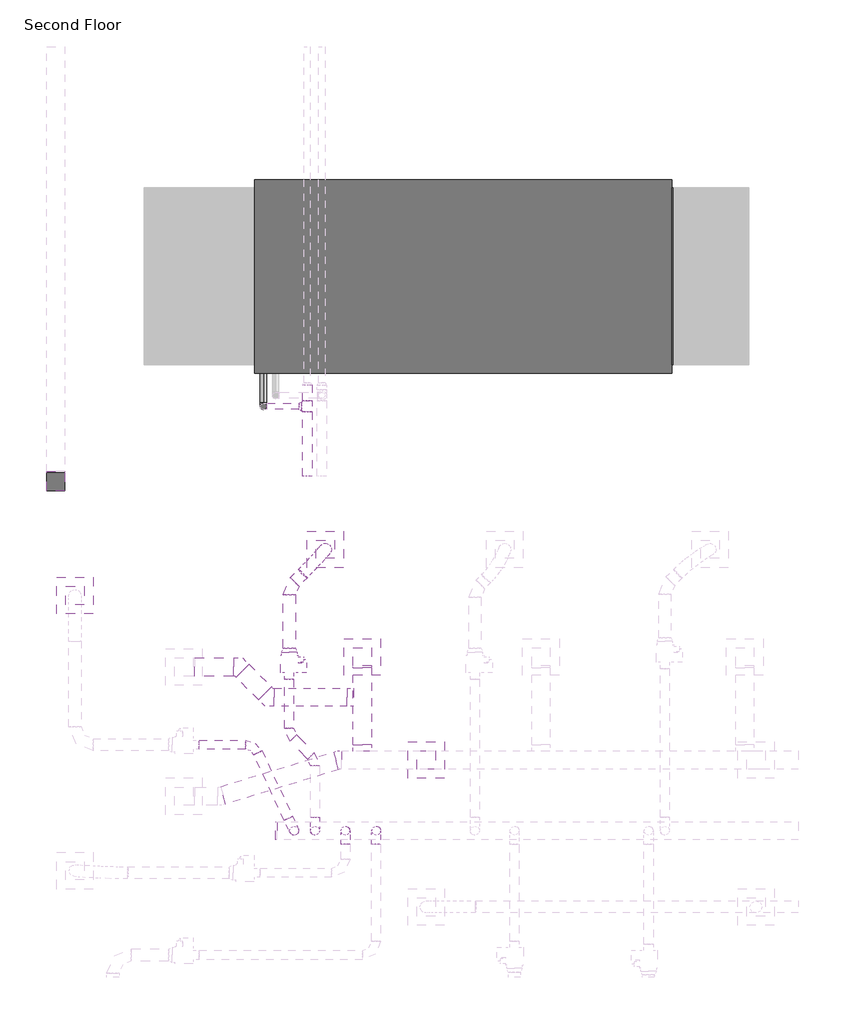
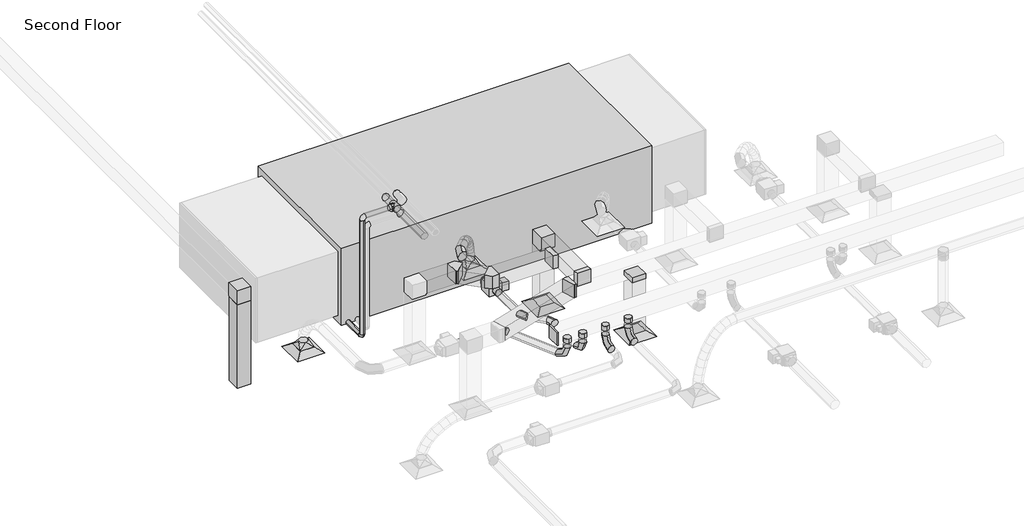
# One storey, part 5 of 44: 24 duct fittings, 19 duct segments, 5 pipe segments, 4 air terminals, 3 pipe fittings, 2 proxies.
"""IFC4 building model written with IfcOpenShell, lengths in millimetres."""

from ifc_helpers import new_model, si_unit, point, frame, frame_2d, origin, place, context, project, spatial, polyline, circle_curve, ellipse_curve, trimmed, segment, composite_curve, outline, extrude, transform, mapped, element, save
from ifc_brep_helpers import plane_surface, cylinder_surface, advanced_brep
from components import m_exhaust_grill_er_600_x_600_face_300_x_300_connection_ff221211, m_air_handling_unit_split_system_horizontal_300fd20e, m_vav_unit_single_duct_150_mm_ffdab17b, m_rectangular_elbow_mitered_standard_b81e202c, m_rectangular_elbow_mitered_standard_8eee5933, m_rectangular_elbow_mitered_standard_7d0aea46, m_rectangular_endcap_standard_7b60dd9d, m_rectangular_takeoff_standard_c00386d1, m_rectangular_takeoff_standard_b44bfa45, m_rectangular_to_round_transition_angle_45_degree_60daae35, m_rectangular_to_round_transition_angle_45_degree_1b7ae117, m_round_elbow_1_5_d_fa134dda, m_round_elbow_1_5_d_2e586196, m_round_elbow_1_5_d_f3829448, m_round_elbow_1_5_d_7cec845b, m_round_takeoff_standard_d02f3bf7, m_round_takeoff_standard_2721f8a4, m_elbow_generic_standard_09f08a26, m_tee_generic_standard_a561f7f4, m_transition_generic_standard_df45198b

model = new_model("IFC4")

# Units and contexts
model_context = context("Model", 3, world=origin())
ifc_project = project(units=[si_unit("LENGTHUNIT", "METRE", prefix="MILLI")], contexts=[model_context])

# Site, building, storey
site = spatial("IfcSite", under=ifc_project)
building = spatial("IfcBuilding", under=site)
storey = spatial("IfcBuildingStorey", under=building, Name="Second Floor", Elevation=4570.0)

# Air terminals
placement = place(None, origin())
m_exhaust_grill_er_600_x_600_face_300_x_300_connection_shape = m_exhaust_grill_er_600_x_600_face_300_x_300_connection_ff221211(model_context)
element("IfcAirTerminal", 1, ObjectType="M_Return Register : RR-600 x 600 Face 300 x 300 Connection", at=placement, inside=storey, context=model_context, shape_type="MappedRepresentation", body=[
    mapped(m_exhaust_grill_er_600_x_600_face_300_x_300_connection_shape, transform((-41268.6463278, 18995.9490649, 7250.0), x_axis=(1.0, 0.0, 0.0), y_axis=(0.0, 1.0, 0.0), z_axis=(0.0, 0.0, 1.0))),
])
element("IfcAirTerminal", 2, ObjectType="M_Return Register : RR-600 x 600 Face 300 x 300 Connection", at=placement, inside=storey, context=model_context, shape_type="MappedRepresentation", body=[
    mapped(m_exhaust_grill_er_600_x_600_face_300_x_300_connection_shape, transform((-40222.3950538, 17305.6323311, 7250.0), x_axis=(1.0, 0.0, 0.0), y_axis=(0.0, 1.0, 0.0), z_axis=(0.0, 0.0, 1.0))),
])
element("IfcAirTerminal", 3, ObjectType="M_Supply Diffuser : SD-600 x 600 Face 300 x 300 Connection", at=placement, inside=storey, context=model_context, shape_type="MappedRepresentation", body=[
    mapped(m_exhaust_grill_er_600_x_600_face_300_x_300_connection_shape, transform((-45979.7910179, 20000.1386962, 7250.0), x_axis=(1.0, 0.0, 0.0), y_axis=(0.0, 1.0, 0.0), z_axis=(0.0, 0.0, 1.0))),
])
element("IfcAirTerminal", 4, ObjectType="M_Supply Diffuser : SD-600 x 600 Face 300 x 300 Connection", at=placement, inside=storey, context=model_context, shape_type="MappedRepresentation", body=[
    mapped(m_exhaust_grill_er_600_x_600_face_300_x_300_connection_shape, transform((-41875.4808414, 20757.586497, 7250.0), x_axis=(1.0, 0.0, 0.0), y_axis=(0.0, 1.0, 0.0), z_axis=(0.0, 0.0, 1.0))),
])

# Proxies
m_air_handling_unit_split_system_horizontal_shape = m_air_handling_unit_split_system_horizontal_300fd20e(model_context)
element("IfcBuildingElementProxy", 5, Name="M_Air Handling Unit - Split System - Horizontal : 63300000 J", ObjectType="M_Air Handling Unit - Split System - Horizontal : 63300000 J", at=placement, inside=storey, context=model_context, shape_type="MappedRepresentation", body=[
    mapped(m_air_handling_unit_split_system_horizontal_shape, transform((-43038.6289987, 23641.3199771, 4570.0), x_axis=(1.0, 0.0, 0.0), y_axis=(0.0, 1.0, 0.0), z_axis=(0.0, 0.0, 1.0))),
])
m_vav_unit_single_duct_150_mm_shape = m_vav_unit_single_duct_150_mm_ffdab17b(model_context)
element("IfcBuildingElementProxy", 6, Name="M_VAV Unit - Single Duct : 150 mm", ObjectType="M_VAV Unit - Single Duct : 150 mm", at=placement, inside=storey, context=model_context, shape_type="MappedRepresentation", body=[
    mapped(m_vav_unit_single_duct_150_mm_shape, transform((-42468.5, 18731.5745441, 8070.0), x_axis=(0.0, 1.0, 0.0), y_axis=(-1.0, 0.0, 0.0), z_axis=(0.0, 0.0, 1.0))),
])

# Duct fittings
m_rectangular_elbow_mitered_standard_shape = m_rectangular_elbow_mitered_standard_b81e202c(model_context)
element("IfcDuctFitting", 7, ObjectType="M_Rectangular Elbow - Mitered : Standard", at=placement, inside=storey, context=model_context, shape_type="MappedRepresentation", body=[
    mapped(m_rectangular_elbow_mitered_standard_shape, transform((-43296.6192649, 18829.5508539, 8820.0), x_axis=(-0.7071067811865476, 0.7071067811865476, 0.0), y_axis=(-0.7071067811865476, -0.7071067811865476, 0.0), z_axis=(0.0, 0.0, 1.0))),
])
element("IfcDuctFitting", 8, ObjectType="M_Rectangular Elbow - Mitered : Standard", at=placement, inside=storey, context=model_context, shape_type="MappedRepresentation", body=[
    mapped(m_rectangular_elbow_mitered_standard_shape, transform((-42801.6445181, 18334.5761071, 8820.0), x_axis=(0.7071067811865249, -0.7071067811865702, 0.0), y_axis=(0.7071067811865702, 0.7071067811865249, 0.0), z_axis=(0.0, 0.0, 1.0))),
])
m_rectangular_elbow_mitered_standard_2_shape = m_rectangular_elbow_mitered_standard_8eee5933(model_context)
element("IfcDuctFitting", 9, ObjectType="M_Rectangular Elbow - Mitered : Standard", at=placement, inside=storey, context=model_context, shape_type="MappedRepresentation", body=[
    mapped(m_rectangular_elbow_mitered_standard_2_shape, transform((-41268.6463278, 18995.9490649, 8820.0), x_axis=(0.0, 0.0, 1.0), y_axis=(0.0, -1.0, 0.0), z_axis=(1.0, 0.0, 0.0))),
])
element("IfcDuctFitting", 10, ObjectType="M_Rectangular Elbow - Mitered : Standard", at=placement, inside=storey, context=model_context, shape_type="MappedRepresentation", body=[
    mapped(m_rectangular_elbow_mitered_standard_2_shape, transform((-46297.5612377, 21863.8569613, 7590.5382387), x_axis=(0.0, 0.0, 1.0), y_axis=(0.0, 1.0, 0.0), z_axis=(-1.0, 0.0, 0.0))),
])
m_rectangular_elbow_mitered_standard_3_shape = m_rectangular_elbow_mitered_standard_7d0aea46(model_context)
element("IfcDuctFitting", 11, ObjectType="M_Rectangular Elbow - Mitered : Standard", at=placement, inside=storey, context=model_context, shape_type="MappedRepresentation", body=[
    mapped(m_rectangular_elbow_mitered_standard_3_shape, transform((-41656.6018515, 17305.6323311, 8820.0), x_axis=(-1.0, 0.0, 0.0), y_axis=(0.0, -1.0, 0.0), z_axis=(0.0, 0.0, 1.0))),
])
m_rectangular_endcap_standard_shape = m_rectangular_endcap_standard_7b60dd9d(model_context)
element("IfcDuctFitting", 12, ObjectType="M_Rectangular Endcap : Standard", at=placement, inside=storey, context=model_context, shape_type="MappedRepresentation", body=[
    mapped(m_rectangular_endcap_standard_shape, transform((-42668.6463278, 16146.5905517, 8770.0), x_axis=(-1.0, 0.0, 0.0), y_axis=(0.0, -1.0, 0.0), z_axis=(0.0, 0.0, 1.0))),
])
m_rectangular_takeoff_standard_shape = m_rectangular_takeoff_standard_c00386d1(model_context)
element("IfcDuctFitting", 13, ObjectType="M_Rectangular Takeoff : Standard", at=placement, inside=storey, context=model_context, shape_type="MappedRepresentation", body=[
    mapped(m_rectangular_takeoff_standard_shape, transform((-41268.6463278, 17455.6323311, 8820.0), x_axis=(0.0, 1.0, 0.0), y_axis=(1.0, 0.0, 0.0), z_axis=(0.0, 0.0, -1.0))),
])
element("IfcDuctFitting", 14, ObjectType="M_Rectangular Takeoff : Standard", at=placement, inside=storey, context=model_context, shape_type="MappedRepresentation", body=[
    mapped(m_rectangular_takeoff_standard_shape, transform((-40222.3950538, 17305.6323311, 8670.0), x_axis=(0.0, 0.0, -1.0), y_axis=(0.0, 1.0, 0.0), z_axis=(1.0, 0.0, 0.0))),
])
m_rectangular_takeoff_standard_2_shape = m_rectangular_takeoff_standard_b44bfa45(model_context)
element("IfcDuctFitting", 15, ObjectType="M_Rectangular Takeoff : Standard", at=placement, inside=storey, context=model_context, shape_type="MappedRepresentation", body=[
    mapped(m_rectangular_takeoff_standard_2_shape, transform((-41418.6463278, 18334.5761071, 8820.0), x_axis=(-1.0, 0.0, 0.0), y_axis=(0.0, 1.0, 0.0), z_axis=(0.0, 0.0, -1.0))),
])
m_rectangular_to_round_transition_angle_45_degree_shape = m_rectangular_to_round_transition_angle_45_degree_60daae35(model_context)
element("IfcDuctFitting", 16, ObjectType="M_Rectangular to Round Transition - Angle : 45 Degree", at=placement, inside=storey, context=model_context, shape_type="MappedRepresentation", body=[
    mapped(m_rectangular_to_round_transition_angle_45_degree_shape, transform((-41875.4808414, 20757.586497, 7351.6), x_axis=(0.0, 0.0, 1.0), y_axis=(1.0, 0.0, 0.0), z_axis=(0.0, 1.0, 0.0))),
])
element("IfcDuctFitting", 17, ObjectType="M_Rectangular to Round Transition - Angle : 45 Degree", at=placement, inside=storey, context=model_context, shape_type="MappedRepresentation", body=[
    mapped(m_rectangular_to_round_transition_angle_45_degree_shape, transform((-45979.7910179, 20000.1386962, 7351.6), x_axis=(0.0, 0.0, 1.0), y_axis=(1.0, 0.0, 0.0), z_axis=(0.0, 1.0, 0.0))),
])
m_rectangular_to_round_transition_angle_45_degree_2_shape = m_rectangular_to_round_transition_angle_45_degree_1b7ae117(model_context)
element("IfcDuctFitting", 18, ObjectType="M_Rectangular to Round Transition - Angle : 45 Degree", at=placement, inside=storey, context=model_context, shape_type="MappedRepresentation", body=[
    mapped(m_rectangular_to_round_transition_angle_45_degree_2_shape, transform((-42468.5, 19074.3745441, 8189.05), x_axis=(0.0, 1.0, 0.0), y_axis=(-1.0, 0.0, 0.0), z_axis=(0.0, 0.0, 1.0))),
])
m_round_elbow_1_5_d_shape = m_round_elbow_1_5_d_fa134dda(model_context)
element("IfcDuctFitting", 19, ObjectType="M_Round Elbow : 1.5 D", at=placement, inside=storey, context=model_context, shape_type="MappedRepresentation", body=[
    mapped(m_round_elbow_1_5_d_shape, transform((-42469.35, 17729.9745441, 8179.5), x_axis=(0.0, -0.9999999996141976, -2.7777777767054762e-05), y_axis=(0.9999999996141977, -7.716049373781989e-10, 2.7777777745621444e-05), z_axis=(-2.7777777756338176e-05, -2.777777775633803e-05, 0.9999999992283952))),
])
element("IfcDuctFitting", 20, ObjectType="M_Round Elbow : 1.5 D", at=placement, inside=storey, context=model_context, shape_type="MappedRepresentation", body=[
    mapped(m_round_elbow_1_5_d_shape, transform((-42045.0859313, 17305.7104754, 8179.5), x_axis=(0.0, 1.0, 0.0), y_axis=(-1.0, 0.0, 0.0), z_axis=(0.0, 0.0, 1.0))),
])
m_round_elbow_1_5_d_2_shape = m_round_elbow_1_5_d_2e586196(model_context)
element("IfcDuctFitting", 21, ObjectType="M_Round Elbow : 1.5 D", at=placement, inside=storey, context=model_context, shape_type="MappedRepresentation", body=[
    mapped(m_round_elbow_1_5_d_2_shape, transform((-41548.0010046, 16146.5905517, 8179.5), x_axis=(0.0, 0.0, -1.0), y_axis=(0.0, -1.0, 0.0), z_axis=(-1.0, 0.0, 0.0))),
])
element("IfcDuctFitting", 22, ObjectType="M_Round Elbow : 1.5 D", at=placement, inside=storey, context=model_context, shape_type="MappedRepresentation", body=[
    mapped(m_round_elbow_1_5_d_2_shape, transform((-41042.7292263, 16146.5905517, 8179.5), x_axis=(0.0, 0.0, -1.0), y_axis=(0.0, -1.0, 0.0), z_axis=(-1.0, 0.0, 0.0))),
])
element("IfcDuctFitting", 23, ObjectType="M_Round Elbow : 1.5 D", at=placement, inside=storey, context=model_context, shape_type="MappedRepresentation", body=[
    mapped(m_round_elbow_1_5_d_2_shape, transform((-42045.0859313, 16146.5905517, 8179.5), x_axis=(0.0, 0.0, -1.0), y_axis=(0.0, 1.0, 0.0), z_axis=(1.0, 0.0, 0.0))),
])
element("IfcDuctFitting", 24, ObjectType="M_Round Elbow : 1.5 D", at=placement, inside=storey, context=model_context, shape_type="MappedRepresentation", body=[
    mapped(m_round_elbow_1_5_d_2_shape, transform((-42386.7135753, 16146.5905517, 8179.5), x_axis=(0.0, 0.0, -1.0), y_axis=(-0.422618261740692, 0.9063077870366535, 0.0), z_axis=(0.9063077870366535, 0.422618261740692, 0.0))),
])
m_round_elbow_1_5_d_3_shape = m_round_elbow_1_5_d_f3829448(model_context)
element("IfcDuctFitting", 25, ObjectType="M_Round Elbow : 1.5 D", at=placement, inside=storey, context=model_context, shape_type="MappedRepresentation", body=[
    mapped(m_round_elbow_1_5_d_3_shape, transform((-42468.5, 20136.2730341, 8189.1), x_axis=(-0.7071067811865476, -0.7071067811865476, 0.0), y_axis=(0.7071067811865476, -0.7071067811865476, 0.0), z_axis=(0.0, 0.0, 1.0))),
])
m_round_elbow_1_5_d_4_shape = m_round_elbow_1_5_d_7cec845b(model_context)
element("IfcDuctFitting", 26, ObjectType="M_Round Elbow : 1.5 D", at=placement, inside=storey, context=model_context, shape_type="MappedRepresentation", body=[
    mapped(m_round_elbow_1_5_d_4_shape, transform((-43042.7292263, 17553.4206552, 8179.5), x_axis=(-0.42261826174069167, 0.9063077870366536, 0.0), y_axis=(-0.9063077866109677, -0.42261826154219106, 3.06493866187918e-05), z_axis=(2.7777777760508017e-05, 1.2952990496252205e-05, 0.9999999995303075))),
])
m_round_takeoff_standard_shape = m_round_takeoff_standard_d02f3bf7(model_context)
element("IfcDuctFitting", 27, ObjectType="M_Round Takeoff : Standard", at=placement, inside=storey, context=model_context, shape_type="MappedRepresentation", body=[
    mapped(m_round_takeoff_standard_shape, transform((-41548.0010046, 16146.5905517, 8620.0), x_axis=(0.0, 0.0, -1.0), y_axis=(1.0, 0.0, 0.0), z_axis=(0.0, -1.0, 0.0))),
])
element("IfcDuctFitting", 28, ObjectType="M_Round Takeoff : Standard", at=placement, inside=storey, context=model_context, shape_type="MappedRepresentation", body=[
    mapped(m_round_takeoff_standard_shape, transform((-42045.0859313, 16146.5905517, 8620.0), x_axis=(0.0, 0.0, -1.0), y_axis=(-1.0, 0.0, 0.0), z_axis=(0.0, 1.0, 0.0))),
])
element("IfcDuctFitting", 29, ObjectType="M_Round Takeoff : Standard", at=placement, inside=storey, context=model_context, shape_type="MappedRepresentation", body=[
    mapped(m_round_takeoff_standard_shape, transform((-42386.7135753, 16146.5905517, 8620.0), x_axis=(0.0, 0.0, -1.0), y_axis=(-1.0, 0.0, 0.0), z_axis=(0.0, 1.0, 0.0))),
])
m_round_takeoff_standard_2_shape = m_round_takeoff_standard_2721f8a4(model_context)
element("IfcDuctFitting", 30, ObjectType="M_Round Takeoff : Standard", at=placement, inside=storey, context=model_context, shape_type="MappedRepresentation", body=[
    mapped(m_round_takeoff_standard_2_shape, transform((-41042.7292263, 16146.5905517, 8620.0), x_axis=(0.0, 0.0, -1.0), y_axis=(1.0, 0.0, 0.0), z_axis=(0.0, -1.0, 0.0))),
])

# Duct segments
element("IfcDuctSegment", 31, ObjectType="Flex - Round", at=placement, inside=storey, context=model_context, shape_type="AdvancedBrep", body=[
    advanced_brep(
    [(-42313.4921028, 20432.6978874, 8189.1), (-42253.9896598, 20350.5962979, 8090.5160851), (-42170.9595628, 20292.3965152, 8189.1), (-42230.4620058, 20374.4981047, 8287.6839149), (-42237.4981758, 20509.9003215, 8170.6728738), (-42188.0306206, 20417.6042627, 8074.5222341), (-42094.0521131, 20370.5269995, 8170.4513614), (-42143.5196684, 20462.8230583, 8266.6020011), (-41948.2635169, 20826.1610652, 7472.7697558), (-41807.1722266, 20830.0245791, 7481.6196743), (-41802.6981659, 20689.0119289, 7471.8516005), (-41943.7894562, 20685.148415, 7463.001682), (-42168.1385734, 20582.4342975, 8119.7471669), (-42134.655335, 20473.4223692, 8035.3326475), (-42023.3447827, 20444.4703847, 8118.5361159), (-42056.8280211, 20553.482313, 8202.9506353), (-42106.0382171, 20649.0406232, 8042.173547), (-42083.1497362, 20528.6651874, 7970.9936328), (-41960.5404465, 20511.8317708, 8040.0831087), (-41983.4289274, 20632.2072067, 8111.263023), (-42052.4773958, 20707.7819316, 7944.125347), (-42036.5900328, 20579.7282188, 7885.7616478), (-41906.686612, 20570.8944331, 7941.4985201), (-41922.573975, 20698.9481459, 7999.8622193), (-42008.7047545, 20756.7461739, 7831.8617205), (-41997.6751063, 20623.2586029, 7785.9565951), (-41862.8624309, 20619.9163281, 7829.1027094), (-41873.892079, 20753.4038992, 7875.0078347), (-41975.9351752, 20794.0533532, 7711.6470833), (-41968.4450066, 20656.5361912, 7678.7264778), (-41830.1808175, 20657.1233608, 7709.2107736), (-41837.6709861, 20794.6405228, 7742.1313791), (-41955.3706707, 20817.8349019, 7589.7115951), (-41950.395999, 20677.4087269, 7571.7064152), (-41809.7675557, 20680.7300069, 7588.1720663), (-41814.7422274, 20821.1561818, 7606.1772462)],
    [
        (0, 1, circle_curve(frame((-42242.2258328, 20362.5472013, 8189.1), z_axis=(-0.6915729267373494, -0.7025707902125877, 0.16769368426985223), x_axis=(-0.7126627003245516, 0.7015068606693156, 0.0)), 100.0)),
        (1, 2, circle_curve(frame((-42242.2258328, 20362.5472013, 8189.1), z_axis=(-0.6915729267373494, -0.7025707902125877, 0.16769368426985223), x_axis=(-0.7126627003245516, 0.7015068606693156, 0.0)), 100.0)),
        (2, 3, circle_curve(frame((-42242.2258328, 20362.5472013, 8189.1), z_axis=(-0.6915729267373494, -0.7025707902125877, 0.16769368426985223), x_axis=(-0.7126627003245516, 0.7015068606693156, 0.0)), 100.0)),
        (3, 0, circle_curve(frame((-42242.2258328, 20362.5472013, 8189.1), z_axis=(-0.6915729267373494, -0.7025707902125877, 0.16769368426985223), x_axis=(-0.7126627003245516, 0.7015068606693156, 0.0)), 100.0)),
        (0, 4),
        (4, 5, ellipse_curve(frame((-42165.7751445, 20440.2136605, 8170.5621176), z_axis=(-0.661437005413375, -0.6812639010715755, 0.31365679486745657), x_axis=(-0.2506661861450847, -0.1933536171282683, -0.9485677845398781)), 101.1463619, 100.0)),
        (5, 1),
        (5, 6, ellipse_curve(frame((-42165.7751445, 20440.2136605, 8170.5621176), z_axis=(-0.661437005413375, -0.6812639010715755, 0.31365679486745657), x_axis=(-0.2506661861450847, -0.1933536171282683, -0.9485677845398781)), 101.1463619, 100.0)),
        (6, 2),
        (6, 7, ellipse_curve(frame((-42165.7751445, 20440.2136605, 8170.5621176), z_axis=(-0.661437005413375, -0.6812639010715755, 0.31365679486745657), x_axis=(-0.2506661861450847, -0.1933536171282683, -0.9485677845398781)), 101.1463619, 100.0)),
        (7, 3),
        (7, 4, ellipse_curve(frame((-42165.7751445, 20440.2136605, 8170.5621176), z_axis=(-0.661437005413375, -0.6812639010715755, 0.31365679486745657), x_axis=(-0.2506661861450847, -0.1933536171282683, -0.9485677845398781)), 101.1463619, 100.0)),
        (8, 9, circle_curve(frame((-41875.4808414, 20757.586497, 7472.3106781), z_axis=(0.06051056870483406, 0.0708892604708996, -0.9956471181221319), x_axis=(-0.7278267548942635, 0.6857456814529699, 0.004590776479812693)), 100.0)),
        (9, 10, circle_curve(frame((-41875.4808414, 20757.586497, 7472.3106781), z_axis=(0.06051056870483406, 0.0708892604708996, -0.9956471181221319), x_axis=(-0.7278267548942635, 0.6857456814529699, 0.004590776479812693)), 100.0)),
        (10, 11, circle_curve(frame((-41875.4808414, 20757.586497, 7472.3106781), z_axis=(0.06051056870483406, 0.0708892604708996, -0.9956471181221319), x_axis=(-0.7278267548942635, 0.6857456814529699, 0.004590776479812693)), 100.0)),
        (11, 8, circle_curve(frame((-41875.4808414, 20757.586497, 7472.3106781), z_axis=(0.06051056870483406, 0.0708892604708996, -0.9956471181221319), x_axis=(-0.7278267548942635, 0.6857456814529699, 0.004590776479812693)), 100.0)),
        (4, 12),
        (12, 13, ellipse_curve(frame((-42095.7416781, 20513.4523411, 8119.1416414), z_axis=(-0.5716960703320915, -0.6048638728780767, 0.5543494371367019), x_axis=(-0.41239723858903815, -0.3722544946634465, -0.8314776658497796)), 100.7015701, 100.0)),
        (13, 5),
        (13, 14, ellipse_curve(frame((-42095.7416781, 20513.4523411, 8119.1416414), z_axis=(-0.5716960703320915, -0.6048638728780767, 0.5543494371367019), x_axis=(-0.41239723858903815, -0.3722544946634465, -0.8314776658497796)), 100.7015701, 100.0)),
        (14, 6),
        (14, 15, ellipse_curve(frame((-42095.7416781, 20513.4523411, 8119.1416414), z_axis=(-0.5716960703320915, -0.6048638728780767, 0.5543494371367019), x_axis=(-0.41239723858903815, -0.3722544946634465, -0.8314776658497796)), 100.7015701, 100.0)),
        (15, 7),
        (15, 12, ellipse_curve(frame((-42095.7416781, 20513.4523411, 8119.1416414), z_axis=(-0.5716960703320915, -0.6048638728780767, 0.5543494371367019), x_axis=(-0.41239723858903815, -0.3722544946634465, -0.8314776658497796)), 100.7015701, 100.0)),
        (12, 16),
        (16, 17, ellipse_curve(frame((-42033.2893318, 20580.436197, 8041.1283279), z_axis=(-0.4737292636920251, -0.5132509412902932, 0.7156493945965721), x_axis=(-0.5155520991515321, -0.497197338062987, -0.6978544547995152)), 100.4252604, 100.0)),
        (17, 13),
        (17, 18, ellipse_curve(frame((-42033.2893318, 20580.436197, 8041.1283279), z_axis=(-0.4737292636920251, -0.5132509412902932, 0.7156493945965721), x_axis=(-0.5155520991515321, -0.497197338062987, -0.6978544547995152)), 100.4252604, 100.0)),
        (18, 14),
        (18, 19, ellipse_curve(frame((-42033.2893318, 20580.436197, 8041.1283279), z_axis=(-0.4737292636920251, -0.5132509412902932, 0.7156493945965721), x_axis=(-0.5155520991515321, -0.497197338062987, -0.6978544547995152)), 100.4252604, 100.0)),
        (19, 15),
        (19, 16, ellipse_curve(frame((-42033.2893318, 20580.436197, 8041.1283279), z_axis=(-0.4737292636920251, -0.5132509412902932, 0.7156493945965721), x_axis=(-0.5155520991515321, -0.497197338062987, -0.6978544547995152)), 100.4252604, 100.0)),
        (16, 20),
        (20, 21, ellipse_curve(frame((-41979.5820039, 20639.3381824, 7942.8119336), z_axis=(-0.3815392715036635, -0.4221352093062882, 0.822331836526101), x_axis=(-0.5779410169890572, -0.5853542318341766, -0.5686339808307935)), 100.2896218, 100.0)),
        (21, 17),
        (21, 22, ellipse_curve(frame((-41979.5820039, 20639.3381824, 7942.8119336), z_axis=(-0.3815392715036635, -0.4221352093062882, 0.822331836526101), x_axis=(-0.5779410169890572, -0.5853542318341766, -0.5686339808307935)), 100.2896218, 100.0)),
        (22, 18),
        (22, 23, ellipse_curve(frame((-41979.5820039, 20639.3381824, 7942.8119336), z_axis=(-0.3815392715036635, -0.4221352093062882, 0.822331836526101), x_axis=(-0.5779410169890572, -0.5853542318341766, -0.5686339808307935)), 100.2896218, 100.0)),
        (23, 19),
        (23, 20, ellipse_curve(frame((-41979.5820039, 20639.3381824, 7942.8119336), z_axis=(-0.3815392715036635, -0.4221352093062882, 0.822331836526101), x_axis=(-0.5779410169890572, -0.5853542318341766, -0.5686339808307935)), 100.2896218, 100.0)),
        (20, 24),
        (24, 25, ellipse_curve(frame((-41935.7835927, 20688.331251, 7830.4822149), z_axis=(-0.2949446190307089, -0.332434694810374, 0.8958207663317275), x_axis=(-0.6149594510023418, -0.6515138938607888, -0.4442460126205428)), 100.23742, 100.0)),
        (25, 21),
        (25, 26, ellipse_curve(frame((-41935.7835927, 20688.331251, 7830.4822149), z_axis=(-0.2949446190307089, -0.332434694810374, 0.8958207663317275), x_axis=(-0.6149594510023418, -0.6515138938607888, -0.4442460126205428)), 100.23742, 100.0)),
        (26, 22),
        (26, 27, ellipse_curve(frame((-41935.7835927, 20688.331251, 7830.4822149), z_axis=(-0.2949446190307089, -0.332434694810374, 0.8958207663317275), x_axis=(-0.6149594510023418, -0.6515138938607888, -0.4442460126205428)), 100.23742, 100.0)),
        (27, 23),
        (27, 24, ellipse_curve(frame((-41935.7835927, 20688.331251, 7830.4822149), z_axis=(-0.2949446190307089, -0.332434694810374, 0.8958207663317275), x_axis=(-0.6149594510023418, -0.6515138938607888, -0.4442460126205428)), 100.23742, 100.0)),
        (24, 28),
        (28, 29, ellipse_curve(frame((-41903.0579964, 20725.588357, 7710.4289285), z_axis=(-0.2081326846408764, -0.23842344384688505, 0.9485963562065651), x_axis=(-0.6364032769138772, -0.7034587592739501, -0.31644374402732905)), 100.2433584, 100.0)),
        (29, 25),
        (29, 30, ellipse_curve(frame((-41903.0579964, 20725.588357, 7710.4289285), z_axis=(-0.2081326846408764, -0.23842344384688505, 0.9485963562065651), x_axis=(-0.6364032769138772, -0.7034587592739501, -0.31644374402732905)), 100.2433584, 100.0)),
        (30, 26),
        (30, 31, ellipse_curve(frame((-41903.0579964, 20725.588357, 7710.4289285), z_axis=(-0.2081326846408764, -0.23842344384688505, 0.9485963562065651), x_axis=(-0.6364032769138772, -0.7034587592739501, -0.31644374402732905)), 100.2433584, 100.0)),
        (31, 27),
        (31, 28, ellipse_curve(frame((-41903.0579964, 20725.588357, 7710.4289285), z_axis=(-0.2081326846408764, -0.23842344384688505, 0.9485963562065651), x_axis=(-0.6364032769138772, -0.7034587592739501, -0.31644374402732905)), 100.2433584, 100.0)),
        (28, 32),
        (32, 33, ellipse_curve(frame((-41882.5691132, 20749.2824544, 7588.9418307), z_axis=(-0.11226466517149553, -0.13028473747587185, 0.9851002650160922), x_axis=(-0.6471839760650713, -0.7426818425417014, -0.17197843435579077)), 100.3168782, 100.0)),
        (33, 29),
        (33, 34, ellipse_curve(frame((-41882.5691132, 20749.2824544, 7588.9418307), z_axis=(-0.11226466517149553, -0.13028473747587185, 0.9851002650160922), x_axis=(-0.6471839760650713, -0.7426818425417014, -0.17197843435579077)), 100.3168782, 100.0)),
        (34, 30),
        (34, 35, ellipse_curve(frame((-41882.5691132, 20749.2824544, 7588.9418307), z_axis=(-0.11226466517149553, -0.13028473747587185, 0.9851002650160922), x_axis=(-0.6471839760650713, -0.7426818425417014, -0.17197843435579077)), 100.3168782, 100.0)),
        (35, 31),
        (35, 32, ellipse_curve(frame((-41882.5691132, 20749.2824544, 7588.9418307), z_axis=(-0.11226466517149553, -0.13028473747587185, 0.9851002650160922), x_axis=(-0.6471839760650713, -0.7426818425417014, -0.17197843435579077)), 100.3168782, 100.0)),
        (32, 8),
        (11, 33),
        (10, 34),
        (9, 35),
    ],
    [
        plane_surface(frame((-42242.2258328, 20385.763613, 8286.3676628), z_axis=(-0.691572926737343, -0.7025707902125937, 0.16769368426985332), x_axis=(0.7223066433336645, -0.6726768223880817, 0.1605584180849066))),
        cylinder_surface(frame((-42242.2258328, 20362.5472013, 8189.1), z_axis=(-0.6915729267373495, -0.7025707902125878, 0.16769368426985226), x_axis=(-0.7126627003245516, 0.7015068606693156, 0.0)), 100.0),
        plane_surface(frame((-41875.4808414, 20857.3339905, 7479.4126181), z_axis=(0.06051056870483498, 0.07088926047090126, -0.9956471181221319), x_axis=(0.9981675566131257, -0.004297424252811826, 0.06035777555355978))),
        cylinder_surface(frame((-42165.7751445, 20440.2136605, 8170.5621176), z_axis=(-0.6163080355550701, -0.6445145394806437, 0.4525101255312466), x_axis=(-0.7213008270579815, 0.6926098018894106, 0.004096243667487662)), 100.0),
        cylinder_surface(frame((-42095.7416781, 20513.4523411, 8119.1416414), z_axis=(-0.5191182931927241, -0.5567852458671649, 0.6484646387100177), x_axis=(-0.726216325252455, 0.687409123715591, 0.008862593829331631)), 100.0),
        cylinder_surface(frame((-42033.2893318, 20580.436197, 8041.1283279), z_axis=(-0.4243281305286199, -0.46536981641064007, 0.7767731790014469), x_axis=(-0.7285290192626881, 0.6849034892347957, 0.012356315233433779)), 100.0),
        cylinder_surface(frame((-41979.5820039, 20639.3381824, 7942.8119336), z_axis=(-0.3365467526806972, -0.37646247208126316, 0.8631409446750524), x_axis=(-0.7292909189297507, 0.6840605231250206, 0.013998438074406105)), 100.0),
        cylinder_surface(frame((-41935.7835927, 20688.331251, 7830.4822149), z_axis=(-0.25194528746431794, -0.28683212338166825, 0.9242569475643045), x_axis=(-0.7291522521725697, 0.6842168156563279, 0.013577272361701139)), 100.0),
        cylinder_surface(frame((-41903.0579964, 20725.588357, 7710.4289285), z_axis=(-0.1633095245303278, -0.18885713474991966, 0.9683299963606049), x_axis=(-0.7285251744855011, 0.6849351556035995, 0.010719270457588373)), 100.0),
        cylinder_surface(frame((-41882.5691132, 20749.2824544, 7588.9418307), z_axis=(-0.06051056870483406, -0.0708892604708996, 0.9956471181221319), x_axis=(-0.7278267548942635, 0.6857456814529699, 0.004590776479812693)), 100.0),
    ],
    [
        (0, [[1, 2, 3, 4]]),
        (1, [[-1, 5, 6, 7]]),
        (1, [[-2, -7, 8, 9]]),
        (1, [[-3, -9, 10, 11]]),
        (1, [[-4, -11, 12, -5]]),
        (2, [[13, 14, 15, 16]]),
        (3, [[-6, 17, 18, 19]]),
        (3, [[-8, -19, 20, 21]]),
        (3, [[-10, -21, 22, 23]]),
        (3, [[-12, -23, 24, -17]]),
        (4, [[-18, 25, 26, 27]]),
        (4, [[-20, -27, 28, 29]]),
        (4, [[-22, -29, 30, 31]]),
        (4, [[-24, -31, 32, -25]]),
        (5, [[-26, 33, 34, 35]]),
        (5, [[-28, -35, 36, 37]]),
        (5, [[-30, -37, 38, 39]]),
        (5, [[-32, -39, 40, -33]]),
        (6, [[-34, 41, 42, 43]]),
        (6, [[-36, -43, 44, 45]]),
        (6, [[-38, -45, 46, 47]]),
        (6, [[-40, -47, 48, -41]]),
        (7, [[-42, 49, 50, 51]]),
        (7, [[-44, -51, 52, 53]]),
        (7, [[-46, -53, 54, 55]]),
        (7, [[-48, -55, 56, -49]]),
        (8, [[-50, 57, 58, 59]]),
        (8, [[-52, -59, 60, 61]]),
        (8, [[-54, -61, 62, 63]]),
        (8, [[-56, -63, 64, -57]]),
        (9, [[-58, 65, -16, 66]]),
        (9, [[-60, -66, -15, 67]]),
        (9, [[-62, -67, -14, 68]]),
        (9, [[-64, -68, -13, -65]]),
    ],
),
])
element("IfcDuctSegment", 32, ObjectType="Mitered Elbows / Taps", at=placement, inside=storey, context=model_context, shape_type="SweptSolid", body=[
    extrude(outline(polyline([(-43507.4177848, 16582.9273511), (-43595.1292962, 16869.8187779), (-41745.8033316, 17435.2144653), (-41658.0918202, 17148.3230385), (-43507.4177848, 16582.9273511)])), frame((0.0, 0.0, 8670.0), z_axis=(0.0, 0.0, 1.0), x_axis=(1.0, 0.0, 0.0)), (0.0, 0.0, 1.0), 300.0),
])
element("IfcDuctSegment", 33, ObjectType="Mitered Elbows / Taps", at=placement, inside=storey, context=model_context, shape_type="SweptSolid", body=[
    extrude(outline(polyline([(-41118.6463278, 17555.6323311), (-41418.6463278, 17555.6323311), (-41418.6463278, 18820.9490649), (-41118.6463278, 18820.9490649), (-41118.6463278, 17555.6323311)])), frame((0.0, 0.0, 8670.0), z_axis=(0.0, 0.0, 1.0), x_axis=(1.0, 0.0, 0.0)), (0.0, 0.0, 1.0), 300.0),
])
element("IfcDuctSegment", 34, ObjectType="Mitered Elbows / Taps", at=placement, inside=storey, context=model_context, shape_type="SweptSolid", body=[
    extrude(outline(polyline([(-41118.6463278, 18845.9490649), (-41418.6463278, 18845.9490649), (-41418.6463278, 19145.9490649), (-41118.6463278, 19145.9490649), (-41118.6463278, 18845.9490649)])), frame((0.0, 0.0, 7351.6), z_axis=(0.0, 0.0, 1.0), x_axis=(1.0, 0.0, 0.0)), (0.0, 0.0, 1.0), 1293.4),
])
element("IfcDuctSegment", 35, ObjectType="Mitered Elbows / Taps", at=placement, inside=storey, context=model_context, shape_type="SweptSolid", body=[
    extrude(outline(polyline([(-40372.3950538, 17155.6323311), (-40372.3950538, 17455.6323311), (-40072.3950538, 17455.6323311), (-40072.3950538, 17155.6323311), (-40372.3950538, 17155.6323311)])), frame((0.0, 0.0, 7351.6), z_axis=(0.0, 0.0, 1.0), x_axis=(1.0, 0.0, 0.0)), (0.0, 0.0, 1.0), 1218.4),
])
element("IfcDuctSegment", 36, ObjectType="Mitered Elbows / Taps", at=placement, inside=storey, context=model_context, shape_type="SweptSolid", body=[
    extrude(outline(polyline([(-44021.6192649, 18679.5508539), (-44021.6192649, 18979.5508539), (-43383.7512993, 18979.5508539), (-43383.7512993, 18679.5508539), (-44021.6192649, 18679.5508539)])), frame((0.0, 0.0, 8670.0), z_axis=(0.0, 0.0, 1.0), x_axis=(1.0, 0.0, 0.0)), (0.0, 0.0, 1.0), 300.0),
])
element("IfcDuctSegment", 37, ObjectType="Mitered Elbows / Taps", at=placement, inside=storey, context=model_context, shape_type="SweptSolid", body=[
    extrude(outline(polyline([(-43341.0736298, 18661.8731844), (-43128.9415954, 18874.0052188), (-42757.1901533, 18502.2537766), (-42969.3221876, 18290.1217423), (-43341.0736298, 18661.8731844)])), frame((0.0, 0.0, 8670.0), z_axis=(0.0, 0.0, 1.0), x_axis=(1.0, 0.0, 0.0)), (0.0, 0.0, 1.0), 300.0),
])
element("IfcDuctSegment", 38, ObjectType="Mitered Elbows / Taps", at=placement, inside=storey, context=model_context, shape_type="SweptSolid", body=[
    extrude(outline(polyline([(-41518.6463278, 18484.5761071), (-41518.6463278, 18184.5761071), (-42714.5124838, 18184.5761071), (-42714.5124838, 18484.5761071), (-41518.6463278, 18484.5761071)])), frame((0.0, 0.0, 8670.0), z_axis=(0.0, 0.0, 1.0), x_axis=(1.0, 0.0, 0.0)), (0.0, 0.0, 1.0), 300.0),
])
element("IfcDuctSegment", 39, ObjectType="Mitered Elbows / Taps", at=placement, inside=storey, context=model_context, shape_type="SweptSolid", body=[
    extrude(outline(polyline([(-46147.5612377, 22013.8569613), (-46147.5612377, 21713.8569613), (-46447.5612377, 21713.8569613), (-46447.5612377, 22013.8569613), (-46147.5612377, 22013.8569613)])), frame((0.0, 0.0, 5471.5480713), z_axis=(0.0, 0.0, 1.0), x_axis=(1.0, 0.0, 0.0)), (0.0, 0.0, 1.0), 1943.9901674),
])
element("IfcDuctSegment", 40, ObjectType="Taps", at=placement, inside=storey, context=model_context, shape_type="SweptSolid", body=[
    extrude(outline(composite_curve([segment(trimmed(circle_curve(frame_2d((8189.1, -42468.5)), 100.0), [point((8189.1, -42368.5))], [point((8289.1, -42468.5))], False, "CARTESIAN"), True, "CONTINUOUS"), segment(trimmed(circle_curve(frame_2d((8189.1, -42468.5)), 100.0), [point((8289.1, -42468.5))], [point((8189.1, -42568.5))], False, "CARTESIAN"), True, "CONTINUOUS"), segment(trimmed(circle_curve(frame_2d((8189.1, -42468.5)), 100.0), [point((8189.1, -42568.5))], [point((8089.1, -42468.5))], False, "CARTESIAN"), True, "CONTINUOUS"), segment(trimmed(circle_curve(frame_2d((8189.1, -42468.5)), 100.0), [point((8089.1, -42468.5))], [point((8189.1, -42368.5))], False, "CARTESIAN"), True, "CONTINUOUS")], self_intersect=False)), frame((0.0, 19134.7298831, 0.0), z_axis=(0.0, 1.0, 0.0), x_axis=(0.0, 0.0, 1.0)), (0.0, 0.0, 1.0), 877.2790823),
])
element("IfcDuctSegment", 41, ObjectType="Taps", at=placement, inside=storey, context=model_context, shape_type="SweptSolid", body=[
    extrude(outline(composite_curve([segment(trimmed(circle_curve(frame_2d((0.0, 100.0)), 100.0), [point((100.0, 100.0))], [point((0.0, 0.0))], False, "CARTESIAN"), True, "CONTINUOUS"), segment(trimmed(circle_curve(frame_2d((0.0, 100.0)), 100.0), [point((0.0, 0.0))], [point((-100.0, 100.0))], False, "CARTESIAN"), True, "CONTINUOUS"), segment(trimmed(circle_curve(frame_2d((0.0, 100.0)), 100.0), [point((-100.0, 100.0))], [point((0.0, 200.0))], False, "CARTESIAN"), True, "CONTINUOUS"), segment(trimmed(circle_curve(frame_2d((0.0, 100.0)), 100.0), [point((0.0, 200.0))], [point((100.0, 100.0))], False, "CARTESIAN"), True, "CONTINUOUS")], self_intersect=False)), frame((-42380.6320344, 20224.1409997, 8289.1), z_axis=(0.707106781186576, 0.7071067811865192, 0.0), x_axis=(0.7071067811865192, -0.707106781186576, 0.0)), (0.0, 0.0, 1.0), 195.7359274),
])
element("IfcDuctSegment", 42, ObjectType="Taps", at=placement, inside=storey, context=model_context, shape_type="SweptSolid", body=[
    extrude(outline(composite_curve([segment(trimmed(circle_curve(frame_2d((-41548.0010046, 16146.5905517)), 75.0), [point((-41623.0010046, 16146.5905517))], [point((-41548.0010046, 16221.5905517))], False, "CARTESIAN"), True, "CONTINUOUS"), segment(trimmed(circle_curve(frame_2d((-41548.0010046, 16146.5905517)), 75.0), [point((-41548.0010046, 16221.5905517))], [point((-41473.0010046, 16146.5905517))], False, "CARTESIAN"), True, "CONTINUOUS"), segment(trimmed(circle_curve(frame_2d((-41548.0010046, 16146.5905517)), 75.0), [point((-41473.0010046, 16146.5905517))], [point((-41548.0010046, 16071.5905517))], False, "CARTESIAN"), True, "CONTINUOUS"), segment(trimmed(circle_curve(frame_2d((-41548.0010046, 16146.5905517)), 75.0), [point((-41548.0010046, 16071.5905517))], [point((-41623.0010046, 16146.5905517))], False, "CARTESIAN"), True, "CONTINUOUS")], self_intersect=False)), frame((0.0, 0.0, 8404.5), z_axis=(0.0, 0.0, 1.0), x_axis=(1.0, 0.0, 0.0)), (0.0, 0.0, 1.0), 115.5),
])
element("IfcDuctSegment", 43, ObjectType="Taps", at=placement, inside=storey, context=model_context, shape_type="SweptSolid", body=[
    extrude(outline(composite_curve([segment(trimmed(circle_curve(frame_2d((-41042.7292263, 16146.5905517)), 75.0), [point((-41117.7292263, 16146.5905517))], [point((-41042.7292263, 16221.5905517))], False, "CARTESIAN"), True, "CONTINUOUS"), segment(trimmed(circle_curve(frame_2d((-41042.7292263, 16146.5905517)), 75.0), [point((-41042.7292263, 16221.5905517))], [point((-40967.7292263, 16146.5905517))], False, "CARTESIAN"), True, "CONTINUOUS"), segment(trimmed(circle_curve(frame_2d((-41042.7292263, 16146.5905517)), 75.0), [point((-40967.7292263, 16146.5905517))], [point((-41042.7292263, 16071.5905517))], False, "CARTESIAN"), True, "CONTINUOUS"), segment(trimmed(circle_curve(frame_2d((-41042.7292263, 16146.5905517)), 75.0), [point((-41042.7292263, 16071.5905517))], [point((-41117.7292263, 16146.5905517))], False, "CARTESIAN"), True, "CONTINUOUS")], self_intersect=False)), frame((0.0, 0.0, 8404.5), z_axis=(0.0, 0.0, 1.0), x_axis=(1.0, 0.0, 0.0)), (0.0, 0.0, 1.0), 115.5),
])
element("IfcDuctSegment", 44, ObjectType="Taps", at=placement, inside=storey, context=model_context, shape_type="SweptSolid", body=[
    extrude(outline(composite_curve([segment(trimmed(circle_curve(frame_2d((0.0, -75.0)), 75.0), [point((0.0, 0.0))], [point((74.9999999, -75.0))], False, "CARTESIAN"), True, "CONTINUOUS"), segment(trimmed(circle_curve(frame_2d((0.0, -75.0)), 75.0), [point((74.9999999, -75.0))], [point((0.0, -150.0))], False, "CARTESIAN"), True, "CONTINUOUS"), segment(trimmed(circle_curve(frame_2d((0.0, -75.0)), 75.0), [point((0.0, -150.0))], [point((-75.0, -75.0))], False, "CARTESIAN"), True, "CONTINUOUS"), segment(trimmed(circle_curve(frame_2d((0.0, -75.0)), 75.0), [point((-75.0, -75.0))], [point((0.0, 0.0))], False, "CARTESIAN"), True, "CONTINUOUS")], self_intersect=False)), frame((-42544.35, 17823.1725956, 8179.5025888), z_axis=(0.0, 0.9999999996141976, 2.7777777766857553e-05), x_axis=(0.0, 2.7777777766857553e-05, -0.9999999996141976)), (0.0, 0.0, 1.0), 806.8019488),
])
element("IfcDuctSegment", 45, ObjectType="Taps", at=placement, inside=storey, context=model_context, shape_type="SweptSolid", body=[
    extrude(outline(composite_curve([segment(trimmed(circle_curve(frame_2d((0.0, -75.0)), 75.0), [point((-75.0, -75.0))], [point((0.0, 0.0))], False, "CARTESIAN"), True, "CONTINUOUS"), segment(trimmed(circle_curve(frame_2d((0.0, -75.0)), 75.0), [point((0.0, 0.0))], [point((75.0, -75.0))], False, "CARTESIAN"), True, "CONTINUOUS"), segment(trimmed(circle_curve(frame_2d((0.0, -75.0)), 75.0), [point((75.0, -75.0))], [point((0.0, -150.0))], False, "CARTESIAN"), True, "CONTINUOUS"), segment(trimmed(circle_curve(frame_2d((0.0, -75.0)), 75.0), [point((0.0, -150.0))], [point((-75.0, -75.0))], False, "CARTESIAN"), True, "CONTINUOUS")], self_intersect=False)), frame((-42110.9869055, 17371.6114496, 8104.5), z_axis=(-0.7071067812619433, 0.7071067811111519, 0.0), x_axis=(0.7071067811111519, 0.7071067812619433, 0.0)), (0.0, 0.0, 1.0), 413.6038969),
])
element("IfcDuctSegment", 46, ObjectType="Taps", at=placement, inside=storey, context=model_context, shape_type="SweptSolid", body=[
    extrude(outline(composite_curve([segment(trimmed(circle_curve(frame_2d((-42045.0859313, 16146.5905517)), 75.0), [point((-41970.0859313, 16146.5905517))], [point((-42045.0859313, 16071.5905517))], False, "CARTESIAN"), True, "CONTINUOUS"), segment(trimmed(circle_curve(frame_2d((-42045.0859313, 16146.5905517)), 75.0), [point((-42045.0859313, 16071.5905517))], [point((-42120.0859313, 16146.5905517))], False, "CARTESIAN"), True, "CONTINUOUS"), segment(trimmed(circle_curve(frame_2d((-42045.0859313, 16146.5905517)), 75.0), [point((-42120.0859313, 16146.5905517))], [point((-42045.0859313, 16221.5905517))], False, "CARTESIAN"), True, "CONTINUOUS"), segment(trimmed(circle_curve(frame_2d((-42045.0859313, 16146.5905517)), 75.0), [point((-42045.0859313, 16221.5905517))], [point((-41970.0859313, 16146.5905517))], False, "CARTESIAN"), True, "CONTINUOUS")], self_intersect=False)), frame((0.0, 0.0, 8404.5), z_axis=(0.0, 0.0, 1.0), x_axis=(1.0, 0.0, 0.0)), (0.0, 0.0, 1.0), 115.5),
])
element("IfcDuctSegment", 47, ObjectType="Taps", at=placement, inside=storey, context=model_context, shape_type="SweptSolid", body=[
    extrude(outline(composite_curve([segment(trimmed(circle_curve(frame_2d((0.0, -75.0)), 75.0), [point((-75.0, -75.0))], [point((0.0, 0.0))], False, "CARTESIAN"), True, "CONTINUOUS"), segment(trimmed(circle_curve(frame_2d((0.0, -75.0)), 75.0), [point((0.0, 0.0))], [point((75.0, -75.0))], False, "CARTESIAN"), True, "CONTINUOUS"), segment(trimmed(circle_curve(frame_2d((0.0, -75.0)), 75.0), [point((75.0, -75.0))], [point((0.0, -150.0000001))], False, "CARTESIAN"), True, "CONTINUOUS"), segment(trimmed(circle_curve(frame_2d((0.0, -75.0)), 75.0), [point((0.0, -150.0000001))], [point((-75.0, -75.0))], False, "CARTESIAN"), True, "CONTINUOUS")], self_intersect=False)), frame((-43186.0721183, 17553.4206552, 8104.5039817), z_axis=(-0.9999999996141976, 0.0, 2.7777777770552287e-05), x_axis=(0.0, 1.0, 0.0)), (0.0, 0.0, 1.0), 756.6591916),
])
element("IfcDuctSegment", 48, ObjectType="Taps", at=placement, inside=storey, context=model_context, shape_type="SweptSolid", body=[
    extrude(outline(composite_curve([segment(trimmed(circle_curve(frame_2d((0.0, 75.0)), 75.0), [point((75.0000001, 75.0))], [point((0.0, 0.0))], False, "CARTESIAN"), True, "CONTINUOUS"), segment(trimmed(circle_curve(frame_2d((0.0, 75.0)), 75.0), [point((0.0, 0.0))], [point((-75.0, 75.0))], False, "CARTESIAN"), True, "CONTINUOUS"), segment(trimmed(circle_curve(frame_2d((0.0, 75.0)), 75.0), [point((-75.0, 75.0))], [point((0.0, 150.0))], False, "CARTESIAN"), True, "CONTINUOUS"), segment(trimmed(circle_curve(frame_2d((0.0, 75.0)), 75.0), [point((0.0, 150.0))], [point((75.0000001, 75.0))], False, "CARTESIAN"), True, "CONTINUOUS")], self_intersect=False)), frame((-42481.8026842, 16350.5098037, 8254.5), z_axis=(-0.42261826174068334, 0.9063077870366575, 0.0), x_axis=(0.9063077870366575, 0.42261826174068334, 0.0)), (0.0, 0.0, 1.0), 1183.9244633),
])
element("IfcDuctSegment", 49, ObjectType="Taps", at=placement, inside=storey, context=model_context, shape_type="SweptSolid", body=[
    extrude(outline(composite_curve([segment(trimmed(circle_curve(frame_2d((-42386.7135753, 16146.5905517)), 75.0), [point((-42311.7135753, 16146.5905517))], [point((-42386.7135753, 16071.5905517))], False, "CARTESIAN"), True, "CONTINUOUS"), segment(trimmed(circle_curve(frame_2d((-42386.7135753, 16146.5905517)), 75.0), [point((-42386.7135753, 16071.5905517))], [point((-42461.7135753, 16146.5905517))], False, "CARTESIAN"), True, "CONTINUOUS"), segment(trimmed(circle_curve(frame_2d((-42386.7135753, 16146.5905517)), 75.0), [point((-42461.7135753, 16146.5905517))], [point((-42386.7135753, 16221.5905517))], False, "CARTESIAN"), True, "CONTINUOUS"), segment(trimmed(circle_curve(frame_2d((-42386.7135753, 16146.5905517)), 75.0), [point((-42386.7135753, 16221.5905517))], [point((-42311.7135753, 16146.5905517))], False, "CARTESIAN"), True, "CONTINUOUS")], self_intersect=False)), frame((0.0, 0.0, 8404.5), z_axis=(0.0, 0.0, 1.0), x_axis=(1.0, 0.0, 0.0)), (0.0, 0.0, 1.0), 115.5),
])

# Pipe fittings
m_elbow_generic_standard_shape = m_elbow_generic_standard_09f08a26(model_context)
element("IfcPipeFitting", 50, ObjectType="M_Elbow - Generic : Standard", at=placement, inside=storey, context=model_context, shape_type="MappedRepresentation", body=[
    mapped(m_elbow_generic_standard_shape, transform((-42892.5789987, 23100.0574771, 4608.1), x_axis=(0.0, -1.0, 0.0), y_axis=(0.0, 0.0, 1.0), z_axis=(-1.0, 0.0, 0.0))),
])
m_tee_generic_standard_shape = m_tee_generic_standard_a561f7f4(model_context)
element("IfcPipeFitting", 51, ObjectType="M_Tee - Generic : Standard", at=placement, inside=storey, context=model_context, shape_type="MappedRepresentation", body=[
    mapped(m_tee_generic_standard_shape, transform((-42173.6892157, 23100.0574771, 7380.0), x_axis=(0.0, -1.0, 0.0), y_axis=(1.0, 0.0, 0.0), z_axis=(0.0, 0.0, 1.0))),
])
m_transition_generic_standard_shape = m_transition_generic_standard_df45198b(model_context)
element("IfcPipeFitting", 52, ObjectType="M_Transition - Generic : Standard", at=placement, inside=storey, context=model_context, shape_type="MappedRepresentation", body=[
    mapped(m_transition_generic_standard_shape, transform((-42264.1767157, 23100.0574771, 7380.0), x_axis=(-1.0, 0.0, 0.0), y_axis=(0.0, -1.0, 0.0), z_axis=(0.0, 0.0, 1.0))),
])

# Pipe segments
element("IfcPipeSegment", 53, ObjectType="Standard", at=placement, inside=storey, context=model_context, shape_type="SweptSolid", body=[
    extrude(outline(composite_curve([segment(trimmed(circle_curve(frame_2d((7380.0, -42173.6892157)), 76.2), [point((7380.0, -42097.4892157))], [point((7456.2, -42173.6892157))], False, "CARTESIAN"), True, "CONTINUOUS"), segment(trimmed(circle_curve(frame_2d((7380.0, -42173.6892157)), 76.2), [point((7456.2, -42173.6892157))], [point((7380.0, -42249.8892157))], False, "CARTESIAN"), True, "CONTINUOUS"), segment(trimmed(circle_curve(frame_2d((7380.0, -42173.6892157)), 76.2), [point((7380.0, -42249.8892157))], [point((7303.8, -42173.6892157))], False, "CARTESIAN"), True, "CONTINUOUS"), segment(trimmed(circle_curve(frame_2d((7380.0, -42173.6892157)), 76.2), [point((7303.8, -42173.6892157))], [point((7380.0, -42097.4892157))], False, "CARTESIAN"), True, "CONTINUOUS")], self_intersect=False)), frame((0.0, 23190.5449771, 0.0), z_axis=(0.0, 1.0, 0.0), x_axis=(0.0, 0.0, 1.0)), (0.0, 0.0, 1.0), 260.0),
])
element("IfcPipeSegment", 54, ObjectType="Standard", at=placement, inside=storey, context=model_context, shape_type="SweptSolid", body=[
    extrude(outline(composite_curve([segment(trimmed(circle_curve(frame_2d((4608.1, -42892.5789987)), 50.8), [point((4608.1, -42943.3789987))], [point((4557.3, -42892.5789987))], False, "CARTESIAN"), True, "CONTINUOUS"), segment(trimmed(circle_curve(frame_2d((4608.1, -42892.5789987)), 50.8), [point((4557.3, -42892.5789987))], [point((4608.1, -42841.7789987))], False, "CARTESIAN"), True, "CONTINUOUS"), segment(trimmed(circle_curve(frame_2d((4608.1, -42892.5789987)), 50.8), [point((4608.1, -42841.7789987))], [point((4658.9, -42892.5789987))], False, "CARTESIAN"), True, "CONTINUOUS"), segment(trimmed(circle_curve(frame_2d((4608.1, -42892.5789987)), 50.8), [point((4658.9, -42892.5789987))], [point((4608.1, -42943.3789987))], False, "CARTESIAN"), True, "CONTINUOUS")], self_intersect=False)), frame((0.0, 23158.7949771, 0.0), z_axis=(0.0, 1.0, 0.0), x_axis=(0.0, 0.0, 1.0)), (0.0, 0.0, 1.0), 482.525),
])
element("IfcPipeSegment", 55, ObjectType="Standard", at=placement, inside=storey, context=model_context, shape_type="SweptSolid", body=[
    extrude(outline(composite_curve([segment(trimmed(circle_curve(frame_2d((-42892.5789987, 23100.0574771)), 50.8), [point((-42943.3789987, 23100.0574771))], [point((-42892.5789987, 23150.8574771))], False, "CARTESIAN"), True, "CONTINUOUS"), segment(trimmed(circle_curve(frame_2d((-42892.5789987, 23100.0574771)), 50.8), [point((-42892.5789987, 23150.8574771))], [point((-42841.7789987, 23100.0574771))], False, "CARTESIAN"), True, "CONTINUOUS"), segment(trimmed(circle_curve(frame_2d((-42892.5789987, 23100.0574771)), 50.8), [point((-42841.7789987, 23100.0574771))], [point((-42892.5789987, 23049.2574771))], False, "CARTESIAN"), True, "CONTINUOUS"), segment(trimmed(circle_curve(frame_2d((-42892.5789987, 23100.0574771)), 50.8), [point((-42892.5789987, 23049.2574771))], [point((-42943.3789987, 23100.0574771))], False, "CARTESIAN"), True, "CONTINUOUS")], self_intersect=False)), frame((0.0, 0.0, 4666.8375), z_axis=(0.0, 0.0, 1.0), x_axis=(1.0, 0.0, 0.0)), (0.0, 0.0, 1.0), 2654.425),
])
element("IfcPipeSegment", 56, ObjectType="Standard", at=placement, inside=storey, context=model_context, shape_type="SweptSolid", body=[
    extrude(outline(composite_curve([segment(trimmed(circle_curve(frame_2d((23100.0574771, 7380.0)), 50.8), [point((23150.8574771, 7380.0))], [point((23100.0574771, 7329.2))], False, "CARTESIAN"), True, "CONTINUOUS"), segment(trimmed(circle_curve(frame_2d((23100.0574771, 7380.0)), 50.8), [point((23100.0574771, 7329.2))], [point((23049.2574771, 7380.0))], False, "CARTESIAN"), True, "CONTINUOUS"), segment(trimmed(circle_curve(frame_2d((23100.0574771, 7380.0)), 50.8), [point((23049.2574771, 7380.0))], [point((23100.0574771, 7430.8))], False, "CARTESIAN"), True, "CONTINUOUS"), segment(trimmed(circle_curve(frame_2d((23100.0574771, 7380.0)), 50.8), [point((23100.0574771, 7430.8))], [point((23150.8574771, 7380.0))], False, "CARTESIAN"), True, "CONTINUOUS")], self_intersect=False)), frame((-42833.8414987, 0.0, 0.0), z_axis=(1.0, 0.0, 0.0), x_axis=(0.0, 1.0, 0.0)), (0.0, 0.0, 1.0), 530.7710331),
])
element("IfcPipeSegment", 57, ObjectType="Standard", at=placement, inside=storey, context=model_context, shape_type="SweptSolid", body=[
    extrude(outline(composite_curve([segment(trimmed(circle_curve(frame_2d((7380.0, -42173.6892157)), 76.2), [point((7380.0, -42097.4892157))], [point((7456.2, -42173.6892157))], False, "CARTESIAN"), True, "CONTINUOUS"), segment(trimmed(circle_curve(frame_2d((7380.0, -42173.6892157)), 76.2), [point((7456.2, -42173.6892157))], [point((7380.0, -42249.8892157))], False, "CARTESIAN"), True, "CONTINUOUS"), segment(trimmed(circle_curve(frame_2d((7380.0, -42173.6892157)), 76.2), [point((7380.0, -42249.8892157))], [point((7303.8, -42173.6892157))], False, "CARTESIAN"), True, "CONTINUOUS"), segment(trimmed(circle_curve(frame_2d((7380.0, -42173.6892157)), 76.2), [point((7303.8, -42173.6892157))], [point((7380.0, -42097.4892157))], False, "CARTESIAN"), True, "CONTINUOUS")], self_intersect=False)), frame((0.0, 21954.4737305, 0.0), z_axis=(0.0, 1.0, 0.0), x_axis=(0.0, 0.0, 1.0)), (0.0, 0.0, 1.0), 1055.0962466),
])

save(model, "model.ifc")
